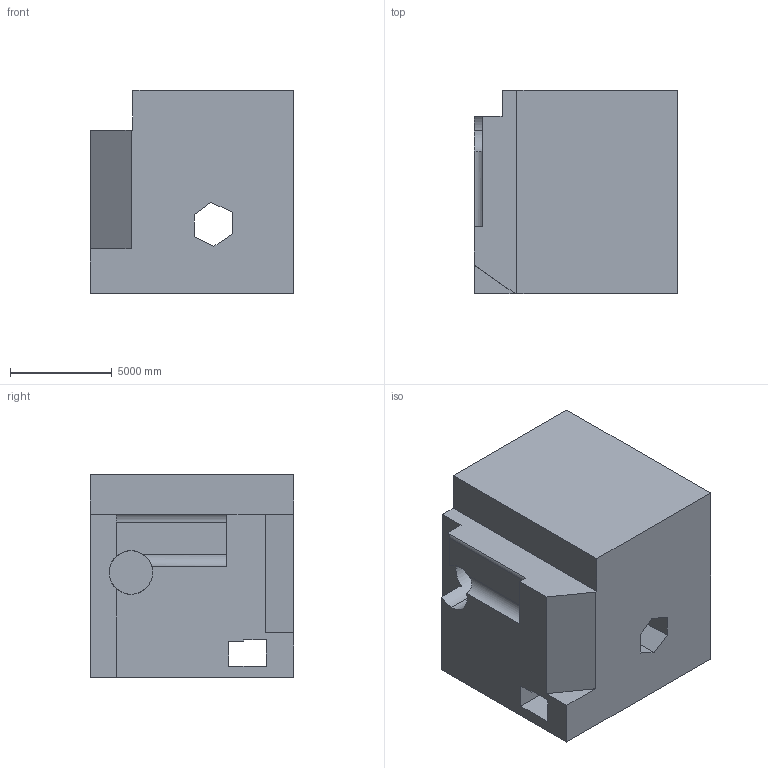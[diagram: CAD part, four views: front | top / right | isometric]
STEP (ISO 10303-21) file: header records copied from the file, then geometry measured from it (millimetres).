
FILE_DESCRIPTION (( 'STEP AP203' ), '1' );
FILE_NAME ('710.STEP', '2022-07-29T12:40:41', ( 'user' ), ( '' ), 'SwSTEP 2.0', 'SolidWorks 2021', '' );
FILE_SCHEMA (( 'CONFIG_CONTROL_DESIGN' ));
Length unit declared in the file: centimetre
Products named in the file (1): 710
Bounding box: 10000 x 10000 x 10000 mm (x, y, z)
Volume: 858934632783.6 mm3; surface area: 726211603 mm2
Topology: 1 solids, 1 shells, 33 faces, 93 edges, 62 vertices
Faces by surface type: plane 28, cylinder 5
Entity records: 1201 total; most frequent: CARTESIAN_POINT 251, ORIENTED_EDGE 186, DIRECTION 170, EDGE_CURVE 93, LINE 80, VECTOR 80, VERTEX_POINT 62, AXIS2_PLACEMENT_3D 45
